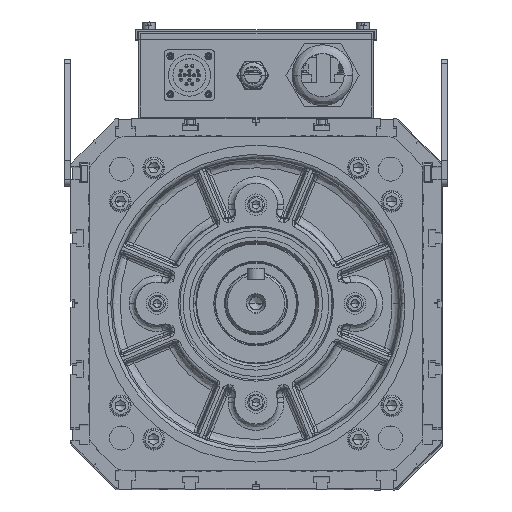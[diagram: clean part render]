
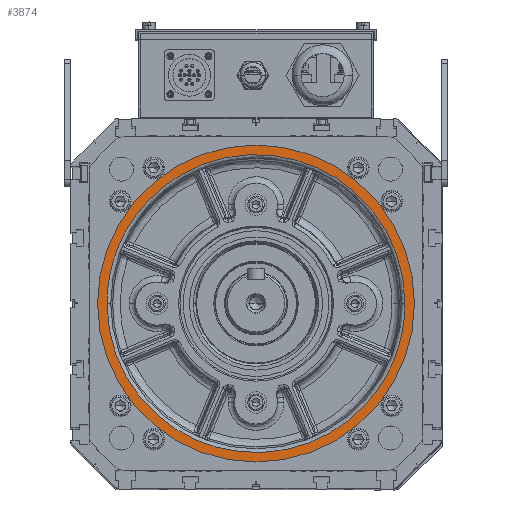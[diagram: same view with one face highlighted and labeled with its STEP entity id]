
A CAD part, top view. The second image highlights one B-rep face of the part: STEP entity #3874.
In plain terms, the highlighted planar face has unit normal (0, 0, 1) as drawn and (0, 0, -1) by its records, which use the part's own axes.
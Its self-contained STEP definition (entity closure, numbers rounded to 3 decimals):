
#3874 = ADVANCED_FACE ( 'NONE', ( #141994, #84541 ), #93509, .F. ) ;
#4488 = EDGE_LOOP ( 'NONE', ( #100479, #54955 ) ) ;
#5647 = CARTESIAN_POINT ( 'NONE',  ( 175.72, -229.179, 132.5 ) ) ;
#7332 = EDGE_CURVE ( 'NONE', #10506, #146351, #15976, .T. ) ;
#10506 = VERTEX_POINT ( 'NONE', #85150 ) ;
#10697 = AXIS2_PLACEMENT_3D ( 'NONE', #119206, #107338, #70523 ) ;
#11113 = DIRECTION ( 'NONE',  ( 1., 0., 0. ) ) ;
#15976 = CIRCLE ( 'NONE', #10697, 125. ) ;
#16045 =( BOUNDED_CURVE ( )  B_SPLINE_CURVE ( 3, ( #147040, #5647, #65248, #23288 ),
 .UNSPECIFIED., .F., .F. ) 
 B_SPLINE_CURVE_WITH_KNOTS ( ( 4, 4 ),
 ( 0., 1. ),
 .UNSPECIFIED. ) 
 CURVE ( )  GEOMETRIC_REPRESENTATION_ITEM ( )  RATIONAL_B_SPLINE_CURVE ( ( 1., 0.333, 0.333, 1. ) ) 
 REPRESENTATION_ITEM ( '' )  );
#23288 = CARTESIAN_POINT ( 'NONE',  ( -59.315, 5.856, 132.5 ) ) ;
#24078 = CARTESIAN_POINT ( 'NONE',  ( 183.202, 5.856, 132.5 ) ) ;
#24649 = VERTEX_POINT ( 'NONE', #112443 ) ;
#27584 = CARTESIAN_POINT ( 'NONE',  ( 58.202, 5.856, 132.5 ) ) ;
#27656 = AXIS2_PLACEMENT_3D ( 'NONE', #27584, #51876, #28581 ) ;
#28581 = DIRECTION ( 'NONE',  ( -1., 0., 0. ) ) ;
#30351 = EDGE_CURVE ( 'NONE', #54144, #24649, #16045, .T. ) ;
#51251 =( BOUNDED_CURVE ( )  B_SPLINE_CURVE ( 3, ( #122603, #133469, #109713, #61470 ),
 .UNSPECIFIED., .F., .F. ) 
 B_SPLINE_CURVE_WITH_KNOTS ( ( 4, 4 ),
 ( 0., 1. ),
 .UNSPECIFIED. ) 
 CURVE ( )  GEOMETRIC_REPRESENTATION_ITEM ( )  RATIONAL_B_SPLINE_CURVE ( ( 1., 0.333, 0.333, 1. ) ) 
 REPRESENTATION_ITEM ( '' )  );
#51876 = DIRECTION ( 'NONE',  ( 0., 0., 1. ) ) ;
#54144 = VERTEX_POINT ( 'NONE', #109743 ) ;
#54955 = ORIENTED_EDGE ( 'NONE', *, *, #56421, .F. ) ;
#56421 = EDGE_CURVE ( 'NONE', #146351, #10506, #103225, .T. ) ;
#61470 = CARTESIAN_POINT ( 'NONE',  ( 175.72, 5.856, 132.5 ) ) ;
#65248 = CARTESIAN_POINT ( 'NONE',  ( -59.315, -229.179, 132.5 ) ) ;
#70523 = DIRECTION ( 'NONE',  ( -1., 0., 0. ) ) ;
#78799 = AXIS2_PLACEMENT_3D ( 'NONE', #80598, #115780, #11113 ) ;
#80598 = CARTESIAN_POINT ( 'NONE',  ( 58.202, 130.856, 132.5 ) ) ;
#82117 = EDGE_CURVE ( 'NONE', #24649, #54144, #51251, .T. ) ;
#84541 = FACE_BOUND ( 'NONE', #100752, .T. ) ;
#85150 = CARTESIAN_POINT ( 'NONE',  ( -66.798, 5.856, 132.5 ) ) ;
#93509 = PLANE ( 'NONE',  #78799 ) ;
#100479 = ORIENTED_EDGE ( 'NONE', *, *, #7332, .F. ) ;
#100752 = EDGE_LOOP ( 'NONE', ( #105462, #115298 ) ) ;
#103225 = CIRCLE ( 'NONE', #27656, 125. ) ;
#105462 = ORIENTED_EDGE ( 'NONE', *, *, #30351, .F. ) ;
#107338 = DIRECTION ( 'NONE',  ( 0., 0., 1. ) ) ;
#109713 = CARTESIAN_POINT ( 'NONE',  ( 175.72, 240.89, 132.5 ) ) ;
#109743 = CARTESIAN_POINT ( 'NONE',  ( 175.72, 5.856, 132.5 ) ) ;
#112443 = CARTESIAN_POINT ( 'NONE',  ( -59.315, 5.856, 132.5 ) ) ;
#115298 = ORIENTED_EDGE ( 'NONE', *, *, #82117, .F. ) ;
#115780 = DIRECTION ( 'NONE',  ( 0., 0., 1. ) ) ;
#119206 = CARTESIAN_POINT ( 'NONE',  ( 58.202, 5.856, 132.5 ) ) ;
#122603 = CARTESIAN_POINT ( 'NONE',  ( -59.315, 5.856, 132.5 ) ) ;
#133469 = CARTESIAN_POINT ( 'NONE',  ( -59.315, 240.89, 132.5 ) ) ;
#141994 = FACE_OUTER_BOUND ( 'NONE', #4488, .T. ) ;
#146351 = VERTEX_POINT ( 'NONE', #24078 ) ;
#147040 = CARTESIAN_POINT ( 'NONE',  ( 175.72, 5.856, 132.5 ) ) ;
